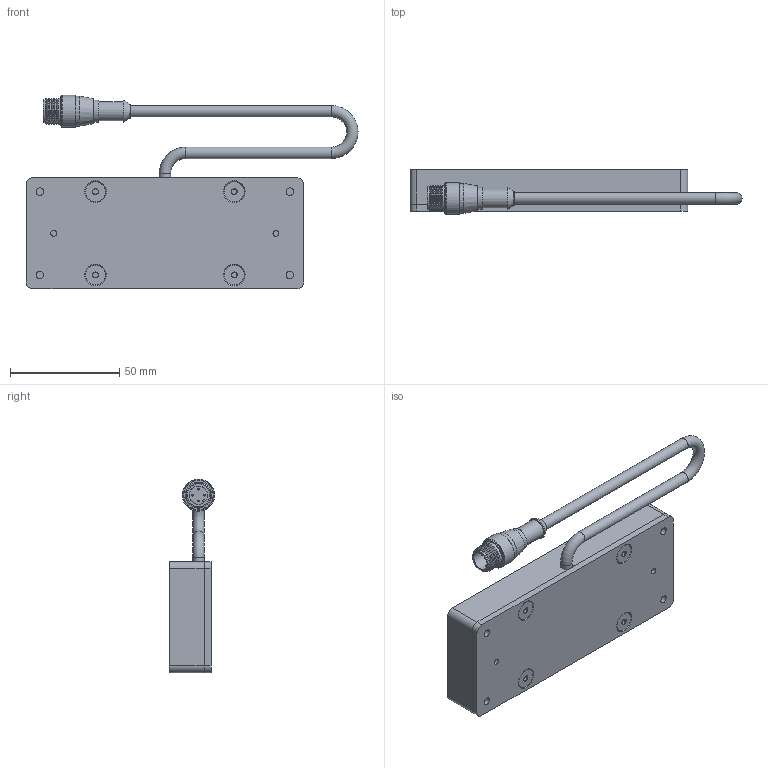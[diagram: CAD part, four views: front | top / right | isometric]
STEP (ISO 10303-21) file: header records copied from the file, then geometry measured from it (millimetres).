
FILE_DESCRIPTION (( 'STEP AP214' ), '1' );
FILE_NAME ('SBL14-XXX.STEP', '2026-04-15T13:49:06', ( '' ), ( '' ), 'SwSTEP 2.0', 'SolidWorks 2025', '' );
FILE_SCHEMA (( 'AUTOMOTIVE_DESIGN' ));
Length unit declared in the file: inch
Products named in the file (9): BackPlate BLYYXX_0104; WD-SBLYYXX_1x4; Hex Standoff X.X x 8-32_0.375; MC Pigtail 24; SC Pigtail Complete 18_4pin; M12 Connector 4,5 and 8 pin; SBL14-XXX; Housing SBL14; 8-32 x 0.375 FHCS (92210A192)_92210A192
Assembly tree (14 placements, depth 3):
  SBL14-XXX
    Housing SBL14
    BackPlate BLYYXX_0104
    WD-SBLYYXX_1x4
    Hex Standoff X.X x 8-32_0.375  x4
    8-32 x 0.375 FHCS (92210A192)_92210A192  x4
    SC Pigtail Complete 18_4pin
      MC Pigtail 24
      M12 Connector 4,5 and 8 pin
Bounding box: 151.83 x 20.61 x 88.59 mm (x, y, z)
Volume: 92675.9 mm3; surface area: 53756.5 mm2
Topology: 13 solids, 13 shells, 316 faces, 718 edges, 438 vertices
Faces by surface type: plane 121, cylinder 83, cone 79, torus 17, bspline 12, sphere 4
Full cylindrical faces by diameter (mm): 0.762 x4, 2.705 x2, 3.454 x8, 4.496 x8, 5.207 x3, 6.604 x4, 6.858 x4, 8.382 x1, 8.636 x1, 9.119 x4, 10.16 x1, 10.541 x1, 11.938 x1, 13.716 x2, 14.732 x1
Entity records: 8584 total; most frequent: CARTESIAN_POINT 2889, DIRECTION 948, ORIENTED_EDGE 724, AXIS2_PLACEMENT_3D 403, EDGE_CURVE 362, EDGE_LOOP 338, VERTEX_POINT 272, FACE_OUTER_BOUND 252
